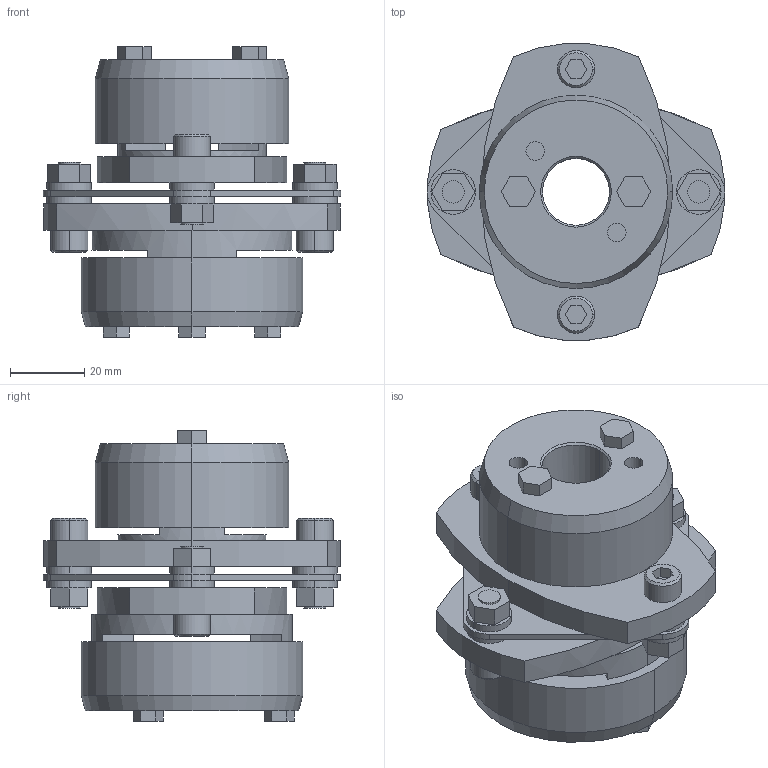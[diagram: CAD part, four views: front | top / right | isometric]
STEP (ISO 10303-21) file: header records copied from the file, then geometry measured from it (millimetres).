
FILE_DESCRIPTION((''),'2;1');
FILE_NAME('LCS-80T7-18×35.stp','2011-09-12T15:10:12',(''),(''),'AutoCAD STEP 2000i','AutoCAD 2000i',', , ');
FILE_SCHEMA(('CONFIG_CONTROL_DESIGN'));
Length unit declared in the file: millimetre
Products named in the file (12): LCS-80T7-17×35; 忣兜1; LC80T7-T035; LC80T7-T032; LC80T7-T030; LC80T7-T028; LC80T7-T024; LC80T7-T022; LC80T7-T019; LC80T7-T017-1; LC80T7-T017; LCS80-ITA
Assembly tree (11 placements, depth 2):
  LCS-80T7-17×35
    忣兜1
    LC80T7-T035
    LC80T7-T032
    LC80T7-T030
    LC80T7-T028
    LC80T7-T024
    LC80T7-T022
    LC80T7-T019
    LC80T7-T017-1
    LC80T7-T017
    LCS80-ITA
Bounding box: 80 x 79.95 x 78.05 mm (x, y, z)
Volume: 135071.1 mm3; surface area: 41759 mm2
Topology: 1 solids, 1 shells, 228 faces, 558 edges, 364 vertices
Faces by surface type: plane 128, cylinder 80, cone 20
Entity records: 7019 total; most frequent: DIRECTION 1242, CARTESIAN_POINT 1162, ORIENTED_EDGE 1116, EDGE_CURVE 558, AXIS2_PLACEMENT_3D 444, VERTEX_POINT 364, VECTOR 354, LINE 354
